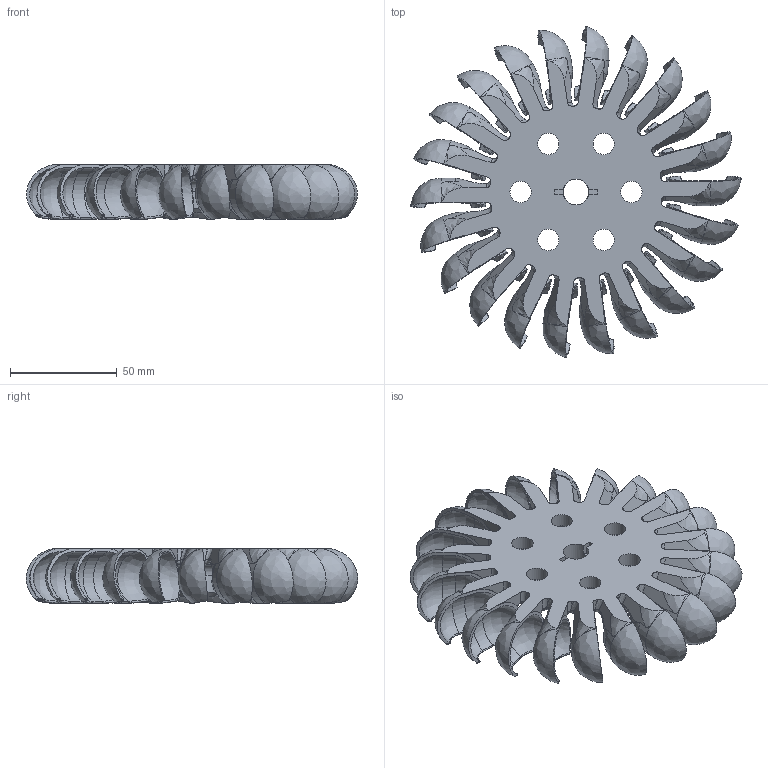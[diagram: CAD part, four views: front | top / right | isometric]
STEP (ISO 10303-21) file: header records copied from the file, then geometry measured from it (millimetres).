
FILE_DESCRIPTION(/* description */ (''),/* implementation_level */ '2;1');
FILE_NAME(/* name */ 'turgo.stp',/* time_stamp */ '2025-04-17T13:21:15+02:00',/* author */ ('R5800u'),/* organization */ (''),/* preprocessor_version */ 'ST-DEVELOPER v20',/* originating_system */ 'Autodesk Inventor 2025',/* authorisation */ '');
FILE_SCHEMA (('AUTOMOTIVE_DESIGN { 1 0 10303 214 3 1 1 }'));
Products named in the file (1): Parte1b
Bounding box: 155.32 x 155.56 x 25.74 mm (x, y, z)
Volume: 94694.8 mm3; surface area: 71734.6 mm2
Topology: 1 solids, 1 shells, 711 faces, 1913 edges, 1202 vertices
Faces by surface type: bspline 286, cylinder 208, plane 165, torus 45, cone 7
Full cylindrical faces by diameter (mm): 5.4 x2, 10 x6, 12.1 x1, 25 x1
Entity records: 37896 total; most frequent: CARTESIAN_POINT 21756, ORIENTED_EDGE 3826, DIRECTION 2328, EDGE_CURVE 1913, VERTEX_POINT 1202, B_SPLINE_CURVE_WITH_KNOTS 936, AXIS2_PLACEMENT_3D 925, EDGE_LOOP 727
